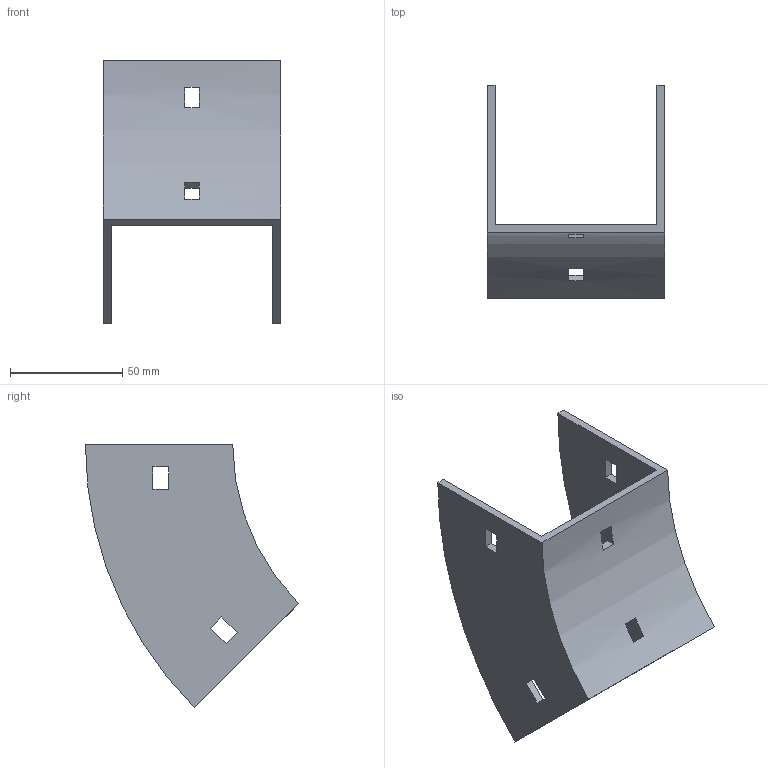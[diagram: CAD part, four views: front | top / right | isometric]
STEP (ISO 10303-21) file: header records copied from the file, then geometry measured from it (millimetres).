
FILE_DESCRIPTION (( 'STEP AP214' ), '1' );
FILE_NAME ('34B1H075.step', '2025-02-21T09:28:44', ( '' ), ( '' ), 'SwSTEP 2.0', 'SolidWorks 2023', '' );
FILE_SCHEMA (( 'AUTOMOTIVE_DESIGN' ));
Length unit declared in the file: millimetre
Products named in the file (1): 34B1H075
Bounding box: 79 x 94.79 x 117.03 mm (x, y, z)
Volume: 66547.2 mm3; surface area: 41044.3 mm2
Topology: 1 solids, 1 shells, 34 faces, 96 edges, 64 vertices
Faces by surface type: plane 30, cylinder 4
Entity records: 1143 total; most frequent: CARTESIAN_POINT 195, ORIENTED_EDGE 192, DIRECTION 182, EDGE_CURVE 96, LINE 80, VECTOR 80, VERTEX_POINT 64, AXIS2_PLACEMENT_3D 51
